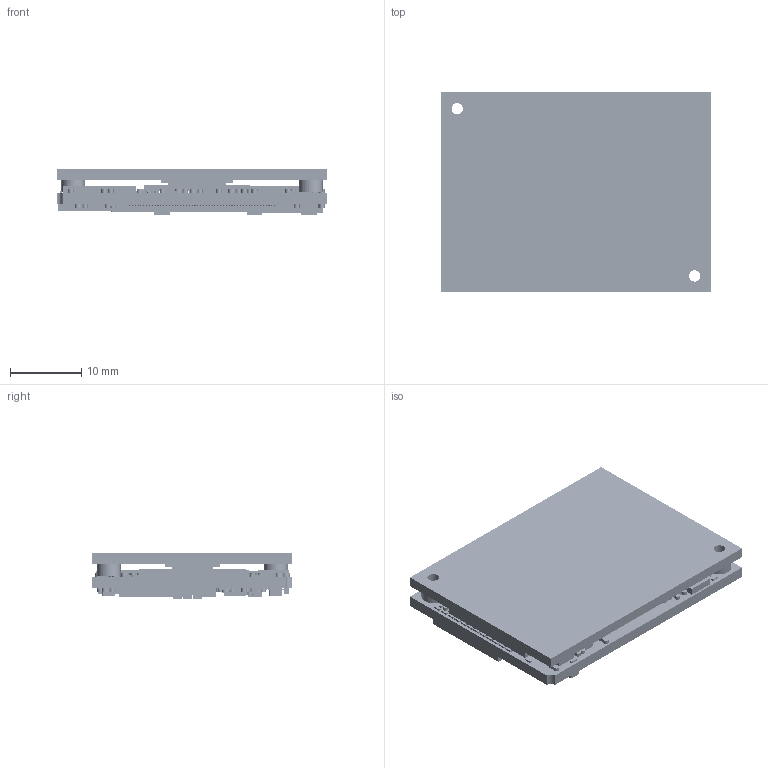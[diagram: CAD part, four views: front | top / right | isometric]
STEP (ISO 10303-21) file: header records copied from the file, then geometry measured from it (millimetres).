
FILE_DESCRIPTION (( 'STEP AP214' ), '1' );
FILE_NAME ('UCM-iMX8PLUS_assembly_w_heatsink.STEP', '2021-04-04T13:46:05', ( 'Windows User' ), ( '' ), 'SwSTEP 2.0', 'SolidWorks 2015', '' );
FILE_SCHEMA (( 'AUTOMOTIVE_DESIGN' ));
Length unit declared in the file: millimetre
Products named in the file (464): 151B104B0S_RC0201; 151B22610S_RC0603; 111S31000S_MO-229VCED-2; 161B10021S_RC0201; 115A01125I-IC, CPU, Industrial, i.MX8M Plus_BGA-15x15; 151B105B0S_RC0201; 151B10600S_RC0402; 151D22200S_RC0402; 182E10004S-Conn._B2B_2x50 cont._P0.4mm_Plug; 161C47035S_RC0402; 151C10300S_RC0402; 161B00001S_RC0201; 161B33R01S_RC0201; 161C82511S_RC0402; 161C00005S_RC0402; 161C82511S_RC0402_161C82511S; UCM-i.MX8M Plus_board; 161B15001S_RC0201; 151B10600S_RC0402_151B10600S; 151D18000S_RC0402; 123V3R300S_DFN1.2x1.3-04-6; 161C47511S_RC0402; 161C15033S_RC0402; 111M33201S_MO-276BA; 111S32100I_WSON5x6mm-8; UCM-iMX8PLUS_assembly_w_heatsink; 161C47511S_RC0402_161C47511S; 163K04000S_RESNET8P0805-compulab; 161B10031S_RC0201; 147D22100S_FB0402_147D22100S; 123M0R602S_QFN7x7-56-4_7x4_7; 163K04103S_RESNET8P0805-compulab; 161C33R05S_RC0402; 141B25603I_OSC3225; 139A10260S_LED-0603_139A10260S; 161C30021S_RC0402_161C30021S; 161C47035S_RC0402_161C47035S; 161C24003S_RC0402; 151D27000S_RC0402; 151D18000S_RC0402_151D18000S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
Assembly tree (405 placements, depth 3):
  151B104B0S_RC0201
  151B22610S_RC0603
  111S31000S_MO-229VCED-2
  151B104B0S_RC0201
  161B10021S_RC0201
Bounding box: 38 x 28 x 6.4 mm (x, y, z)
Volume: 4240.5 mm3; surface area: 8236 mm2
Topology: 409 solids, 409 shells, 28633 faces, 83666 edges, 55844 vertices
Faces by surface type: plane 27727, cylinder 882, sphere 16, cone 8
Entity records: 300165 total; most frequent: CARTESIAN_POINT 41834, ORIENTED_EDGE 41172, DIRECTION 36238, EDGE_CURVE 20586, LINE 19646, VECTOR 19646, VERTEX_POINT 13740, AXIS2_PLACEMENT_3D 8296
